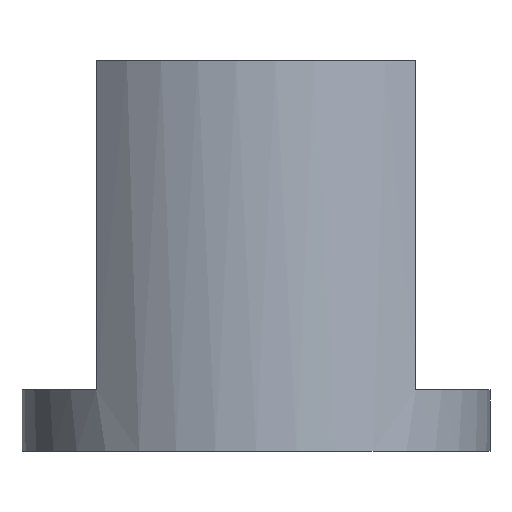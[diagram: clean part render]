
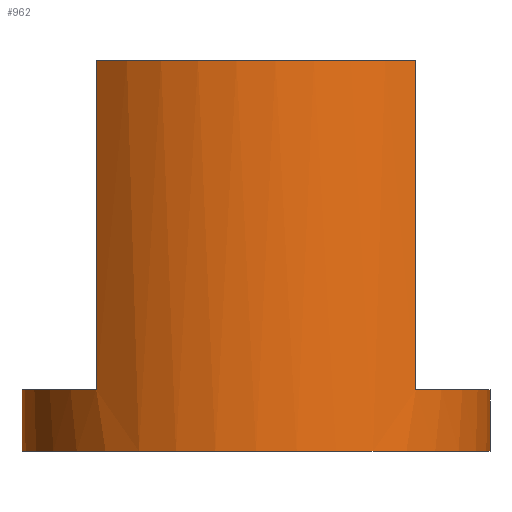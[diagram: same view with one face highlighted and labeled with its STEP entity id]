
A CAD part, front view. The second image highlights one B-rep face of the part: STEP entity #962.
In plain terms, the highlighted cylindrical face has radius 9.207 mm (diameter 18.415 mm), a partial arc.
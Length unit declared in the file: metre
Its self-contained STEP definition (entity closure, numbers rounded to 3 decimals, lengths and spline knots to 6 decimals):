
#66=LINE('',#1508,#146);
#96=LINE('',#1670,#176);
#103=LINE('',#1689,#183);
#105=LINE('',#1693,#185);
#146=VECTOR('',#1141,1.);
#176=VECTOR('',#1225,1.);
#183=VECTOR('',#1240,1.);
#185=VECTOR('',#1246,1.);
#215=CIRCLE('',#1002,0.009208);
#220=CIRCLE('',#1009,0.009208);
#237=CIRCLE('',#1047,0.009208);
#243=CIRCLE('',#1060,0.009208);
#464=ORIENTED_EDGE('',*,*,#665,.F.);
#465=ORIENTED_EDGE('',*,*,#629,.T.);
#466=ORIENTED_EDGE('',*,*,#577,.T.);
#467=ORIENTED_EDGE('',*,*,#640,.F.);
#468=ORIENTED_EDGE('',*,*,#562,.F.);
#469=ORIENTED_EDGE('',*,*,#582,.T.);
#470=ORIENTED_EDGE('',*,*,#644,.T.);
#471=ORIENTED_EDGE('',*,*,#638,.F.);
#562=EDGE_CURVE('',#706,#707,#215,.T.);
#577=EDGE_CURVE('',#720,#719,#220,.T.);
#582=EDGE_CURVE('',#706,#723,#66,.T.);
#629=EDGE_CURVE('',#753,#720,#96,.T.);
#638=EDGE_CURVE('',#760,#759,#103,.T.);
#640=EDGE_CURVE('',#707,#719,#105,.T.);
#644=EDGE_CURVE('',#723,#759,#237,.T.);
#665=EDGE_CURVE('',#753,#760,#243,.T.);
#706=VERTEX_POINT('',#1426);
#707=VERTEX_POINT('',#1428);
#719=VERTEX_POINT('',#1494);
#720=VERTEX_POINT('',#1496);
#723=VERTEX_POINT('',#1507);
#753=VERTEX_POINT('',#1671);
#759=VERTEX_POINT('',#1686);
#760=VERTEX_POINT('',#1688);
#838=EDGE_LOOP('',(#464,#465,#466,#467,#468,#469,#470,#471));
#894=FACE_BOUND('',#838,.T.);
#920=CYLINDRICAL_SURFACE('',#1063,0.009208);
#962=ADVANCED_FACE('',(#894),#920,.T.);
#1002=AXIS2_PLACEMENT_3D('',#1427,#1113,#1114);
#1009=AXIS2_PLACEMENT_3D('',#1495,#1134,#1135);
#1047=AXIS2_PLACEMENT_3D('',#1699,#1254,#1255);
#1060=AXIS2_PLACEMENT_3D('',#1740,#1294,#1295);
#1063=AXIS2_PLACEMENT_3D('',#1743,#1300,#1301);
#1113=DIRECTION('',(0.,0.,1.));
#1114=DIRECTION('',(0.,1.,0.));
#1134=DIRECTION('',(0.,0.,-1.));
#1135=DIRECTION('',(0.,1.,0.));
#1141=DIRECTION('',(0.,0.,-1.));
#1225=DIRECTION('',(0.,0.,1.));
#1240=DIRECTION('',(0.,0.,1.));
#1246=DIRECTION('',(0.,0.,-1.));
#1254=DIRECTION('',(0.,0.,-1.));
#1255=DIRECTION('',(0.,1.,0.));
#1294=DIRECTION('',(0.,0.,-1.));
#1295=DIRECTION('',(0.,1.,0.));
#1300=DIRECTION('',(0.,0.,1.));
#1301=DIRECTION('',(0.,-1.,0.));
#1426=CARTESIAN_POINT('',(-0.006287,-0.030057,0.026441));
#1427=CARTESIAN_POINT('',(0.,-0.02333,0.026441));
#1428=CARTESIAN_POINT('',(0.006287,-0.030057,0.026441));
#1494=CARTESIAN_POINT('',(0.006287,-0.030057,0.013487));
#1495=CARTESIAN_POINT('',(0.,-0.02333,0.013487));
#1496=CARTESIAN_POINT('',(0.009208,-0.02333,0.013487));
#1507=CARTESIAN_POINT('',(-0.006287,-0.030057,0.013487));
#1508=CARTESIAN_POINT('',(-0.006287,-0.030057,0.026441));
#1670=CARTESIAN_POINT('',(0.009208,-0.02333,0.011074));
#1671=CARTESIAN_POINT('',(0.009208,-0.02333,0.011074));
#1686=CARTESIAN_POINT('',(-0.009208,-0.02333,0.013487));
#1688=CARTESIAN_POINT('',(-0.009208,-0.02333,0.011074));
#1689=CARTESIAN_POINT('',(-0.009208,-0.02333,0.011074));
#1693=CARTESIAN_POINT('',(0.006287,-0.030057,0.026441));
#1699=CARTESIAN_POINT('',(0.,-0.02333,0.013487));
#1740=CARTESIAN_POINT('',(0.,-0.02333,0.011074));
#1743=CARTESIAN_POINT('',(0.,-0.02333,0.011074));
